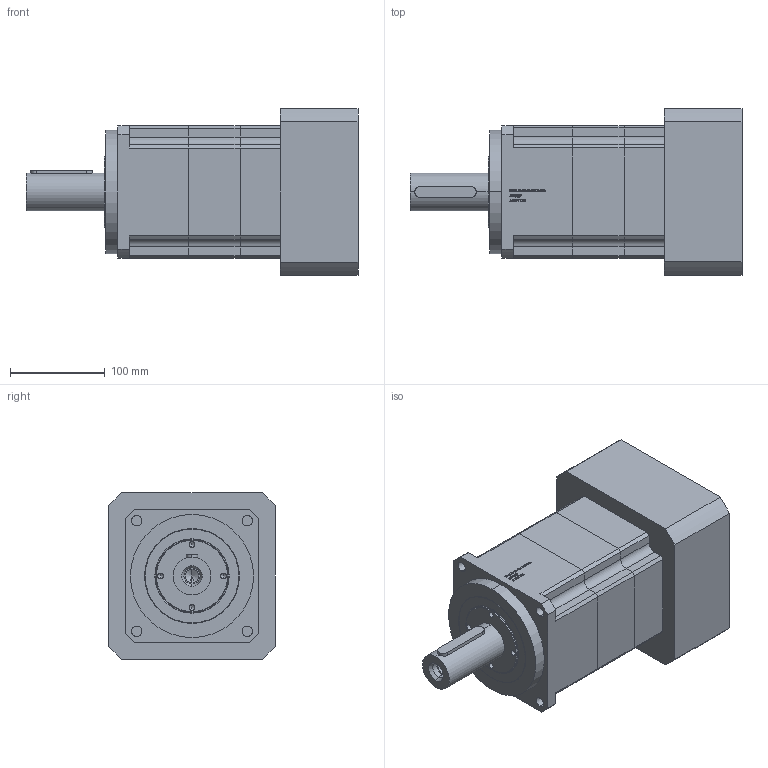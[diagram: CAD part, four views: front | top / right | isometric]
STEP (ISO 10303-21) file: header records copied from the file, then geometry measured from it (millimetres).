
FILE_DESCRIPTION (( 'STEP AP203' ), '1' );
FILE_NAME ('PAG140-L2-42-114.3-200.STEP', '2022-07-18T08:53:27', ( 'Windows User' ), ( 'P R C' ), 'SwSTEP 2.0', 'SolidWorks 2016', '' );
FILE_SCHEMA (( 'CONFIG_CONTROL_DESIGN' ));
Length unit declared in the file: millimetre
Products named in the file (9): PAG140二级齿圈; PAG140狟裔啣-42; PAG140-LJ55 176選 114.3x10 200xM12 82L 116.5(113) 2341568701-A2; 邧埴瑩 12x8x65; TC75-100-10_TC-34.9-55-7; TC70-95-8_TC-34.9-55-7; 囀鞠褒蹟佪-M10℅30; PAG140-L2-42-114.3-200; PAG140奻裔啣
Assembly tree (8 placements, depth 2):
  PAG140-L2-42-114.3-200
    PAG140奻裔啣
    PAG140二级齿圈
    PAG140狟裔啣-42
    PAG140-LJ55 176選 114.3x10 200xM12 82L 116.5(113) 2341568701-A2
    邧埴瑩 12x8x65
    TC75-100-10_TC-34.9-55-7
    TC70-95-8_TC-34.9-55-7
    囀鞠褒蹟佪-M10℅30
Bounding box: 350.5 x 176 x 176 mm (x, y, z)
Volume: 5233497.1 mm3; surface area: 456072.2 mm2
Topology: 8 solids, 8 shells, 977 faces, 2567 edges, 1682 vertices
Faces by surface type: plane 575, cylinder 178, bspline 150, cone 42, torus 32
Entity records: 37081 total; most frequent: CARTESIAN_POINT 12613, ORIENTED_EDGE 5098, DIRECTION 4392, EDGE_CURVE 2549, VECTOR 1758, LINE 1758, VERTEX_POINT 1682, AXIS2_PLACEMENT_3D 1317
